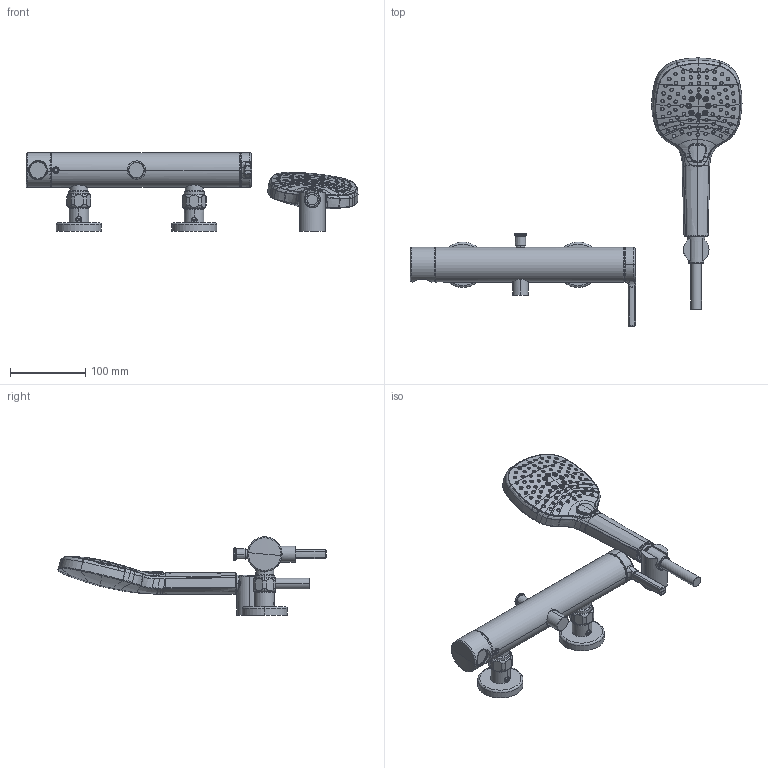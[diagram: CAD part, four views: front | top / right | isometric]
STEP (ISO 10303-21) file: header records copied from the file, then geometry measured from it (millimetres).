
FILE_DESCRIPTION((''),'2;1');
FILE_NAME('AVA_153_ASM','2021-04-29T07:16:54',('KS894'),(''),'CREO PARAMETRIC BY PTC INC, 2018500','CREO PARAMETRIC BY PTC INC, 2018500','');
FILE_SCHEMA(('CONFIG_CONTROL_DESIGN'));
Products named in the file (20): AVA_153_SW0001; 122540; 536854; MSBR-40_1_1_1; MSBR-39_1_1_1; MSBR-17_1_1_1; MSBR-16_1_1_1; MSBR-15_1_1_1; MSBR-14_1_1_1; MSBR-13_1_1_1; MSBR-12_1_1_1; MSBR-11_1_1_1; MSBR-10_1_1_1; MSBR-2_1_1_1; MSBR-1_1_1_1; K0413_ASM_1_ASM_1_ASM_1_ASM; K0413_ASM_1_ASM_1_ASM; K0413_ASM_1_ASM; 538386_ASM; AVA_153_ASM
Assembly tree (19 placements, depth 6):
  AVA_153_ASM
    AVA_153_SW0001
    122540
    536854
    538386_ASM
      K0413_ASM_1_ASM
        K0413_ASM_1_ASM_1_ASM
          K0413_ASM_1_ASM_1_ASM_1_ASM
            MSBR-40_1_1_1
            MSBR-39_1_1_1
            MSBR-17_1_1_1
            MSBR-16_1_1_1
            MSBR-15_1_1_1
            MSBR-14_1_1_1
            MSBR-13_1_1_1
            MSBR-12_1_1_1
            MSBR-11_1_1_1
            MSBR-10_1_1_1
            MSBR-2_1_1_1
            MSBR-1_1_1_1
Bounding box: 440.84 x 356.06 x 104.1 mm (x, y, z)
Volume: 781175.1 mm3; surface area: 190608.7 mm2
Topology: 17 solids, 18 shells, 4084 faces, 10514 edges, 6422 vertices
Faces by surface type: bspline 2467, plane 538, cylinder 480, cone 273, torus 217, extrusion 79, sphere 26, revolution 4
Entity records: 339665 total; most frequent: CARTESIAN_POINT 261788, ORIENTED_EDGE 20982, EDGE_CURVE 10491, DIRECTION 8191, B_SPLINE_CURVE_WITH_KNOTS 7153, VERTEX_POINT 6422, EDGE_LOOP 4267, FACE_OUTER_BOUND 4084
